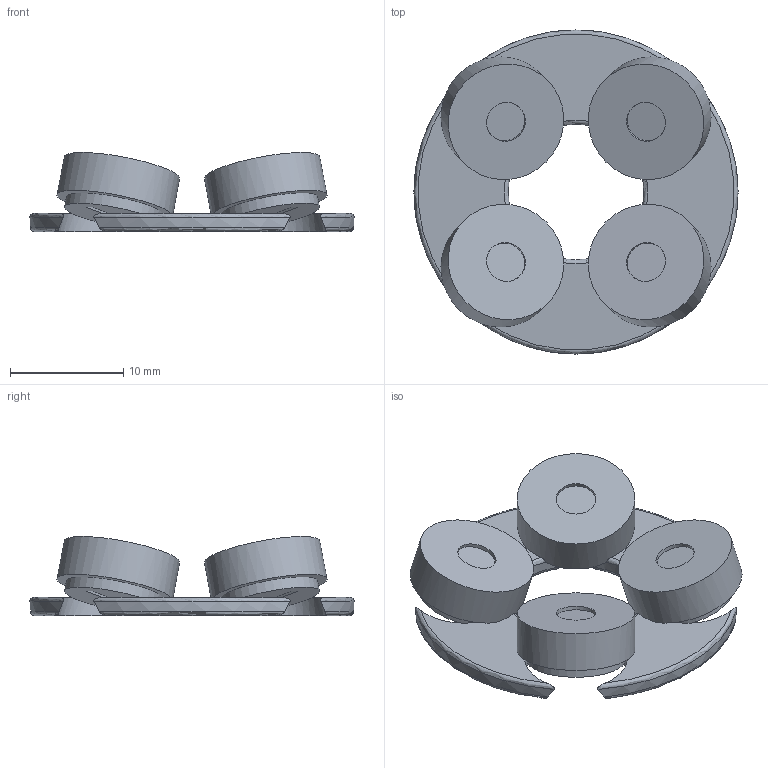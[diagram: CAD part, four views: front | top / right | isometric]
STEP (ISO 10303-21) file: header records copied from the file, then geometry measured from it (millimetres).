
FILE_DESCRIPTION(('Open CASCADE Model'),'2;1');
FILE_NAME('Open CASCADE Shape Model','2026-10-02T16:54:50',('Author'),( 'Open CASCADE'),'Open CASCADE STEP processor 7.9','Open CASCADE 7.9' ,'Unknown');
FILE_SCHEMA(('AUTOMOTIVE_DESIGN { 1 0 10303 214 1 1 1 1 }'));
Length unit declared in the file: millimetre
Products named in the file (10): OMI_REAR_LOADING_PLA_V5; carrier_body; rear_cap_1; REFERENCE_ONLY_magnet_1; rear_cap_2; REFERENCE_ONLY_magnet_2; rear_cap_3; REFERENCE_ONLY_magnet_3; rear_cap_4; REFERENCE_ONLY_magnet_4
Assembly tree (9 placements, depth 2):
  OMI_REAR_LOADING_PLA_V5
    carrier_body
    rear_cap_1
    REFERENCE_ONLY_magnet_1
    rear_cap_2
    REFERENCE_ONLY_magnet_2
    rear_cap_3
    REFERENCE_ONLY_magnet_3
    rear_cap_4
    REFERENCE_ONLY_magnet_4
Bounding box: 28.67 x 28.67 x 7 mm (x, y, z)
Volume: 1608 mm3; surface area: 3626.2 mm2
Topology: 9 solids, 9 shells, 172 faces, 404 edges, 268 vertices
Faces by surface type: plane 68, cylinder 64, bspline 24, torus 16
Full cylindrical faces by diameter (mm): 3.5 x4, 4 x4, 5.3 x8, 6.9 x4, 7.3 x4, 8.7 x4, 10.4 x4
Entity records: 29151 total; most frequent: CARTESIAN_POINT 21488, DIRECTION 1150, ORIENTED_EDGE 808, PCURVE 808, DEFINITIONAL_REPRESENTATION 808, B_SPLINE_CURVE_WITH_KNOTS 500, LINE 440, VECTOR 440
